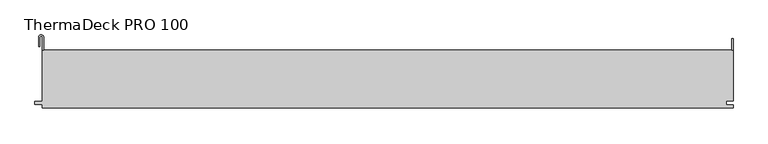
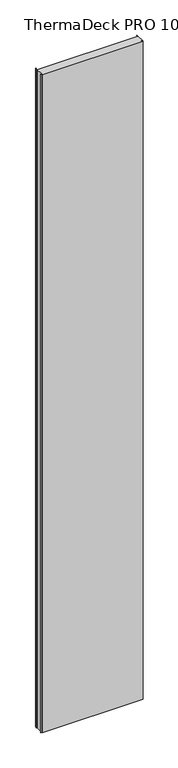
"""IFC4 building model written with IfcOpenShell, lengths in millimetres: plate geometry, Europanels_ThermaDeck PRO_Vt : ThermaDeck PRO 100."""

from ifc_helpers import new_model, si_unit, point, frame_2d, origin, origin_with_axes, place, context, project, spatial, polyline, circle_curve, trimmed, segment, composite_curve, outline, extrude, source, transform, mapped, element, save


def thermadeck_pro_100_23aa4f16(model_context):
    return source(origin(), model_context, "Body", "SweptSolid", [
        extrude(outline(polyline([(592.0, 50.0), (592.0, 70.0), (594.0, 70.0), (594.0, 50.0), (592.0, 50.0)])), origin_with_axes(), (0.0, 0.0, 1.0), 8180.0),
        extrude(outline(composite_curve([segment(polyline([(-592.0, 72.0237285), (-592.0, 50.0), (-594.0, 50.0), (-594.0, 72.0237285)]), True, "CONTINUOUS"), segment(trimmed(circle_curve(frame_2d((-596.1885138, 72.0237285)), 2.1885138), [point((-594.0, 72.0237285))], [point((-598.3770276, 72.0237285))], True, "CARTESIAN"), True, "CONTINUOUS"), segment(polyline([(-598.3770276, 72.0237285), (-598.3770276, 56.0558472), (-600.3770276, 56.0558472), (-600.3770276, 72.0237285)]), True, "CONTINUOUS"), segment(trimmed(circle_curve(frame_2d((-596.1885138, 72.0237285)), 4.1885138), [point((-600.3770276, 72.0237285))], [point((-592.0, 72.0237285))], False, "CARTESIAN"), True, "CONTINUOUS")], self_intersect=False)), origin_with_axes(), (0.0, 0.0, 1.0), 8180.0),
        extrude(outline(polyline([(-594.0, -50.0), (-594.0, -44.0), (-606.9631544, -44.0), (-606.9631544, -38.8855682), (-594.0, -38.8855682), (-594.0, 50.0), (594.0, 50.0), (594.0, -37.8855682), (582.0447029, -37.8855682), (582.0447029, -45.0), (594.0, -45.0), (594.0, -50.0), (-594.0, -50.0)])), origin_with_axes(), (0.0, 0.0, 1.0), 8180.0),
    ])


if __name__ == "__main__":
    model = new_model("IFC4")
    model_context = context("Model", 3, world=origin())
    ifc_project = project(units=[si_unit("LENGTHUNIT", "METRE", prefix="MILLI")], contexts=[model_context])
    site = spatial("IfcSite", under=ifc_project)
    building = spatial("IfcBuilding", under=site)
    placement = place(None, origin())
    thermadeck_pro_100_shape = thermadeck_pro_100_23aa4f16(model_context)
    element("IfcPlate", 1, ObjectType="Europanels_ThermaDeck PRO_Vt : ThermaDeck PRO 100", at=placement, inside=building, context=model_context, shape_type="MappedRepresentation", body=[
        mapped(thermadeck_pro_100_shape, transform((0.0, 0.0, 0.0), x_axis=(1.0, 0.0, 0.0), y_axis=(0.0, 1.0, 0.0), z_axis=(0.0, 0.0, 1.0))),
    ])
    save(model, "model.ifc")
